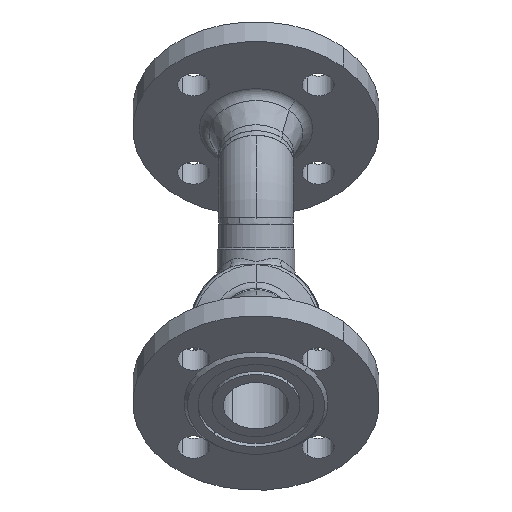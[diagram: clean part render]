
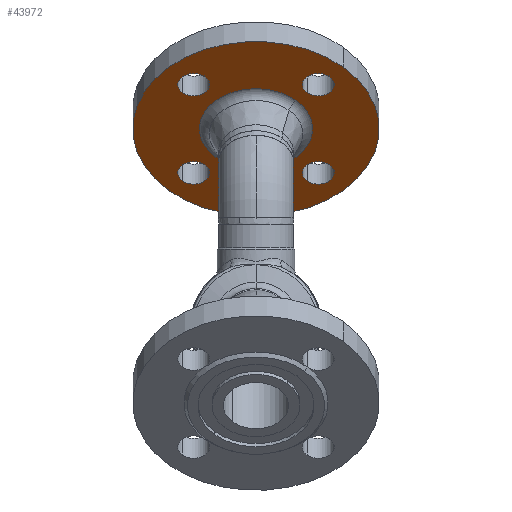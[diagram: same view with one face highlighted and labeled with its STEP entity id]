
A CAD part, front view. The second image highlights one B-rep face of the part: STEP entity #43972.
In plain terms, the highlighted planar face has unit normal (0, -0.707, -0.707) as drawn and (0, 1, 0) by its records, which use the part's own axes.
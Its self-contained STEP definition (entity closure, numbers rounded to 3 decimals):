
#49262 = ORIENTED_EDGE ( 'NONE', *, *, #45022, .F. ) ;
#49599 = CARTESIAN_POINT ( 'NONE',  ( -41., 18., 0. ) ) ;
#512 = EDGE_LOOP ( 'NONE', ( #53737, #51328 ) ) ;
#33617 = CARTESIAN_POINT ( 'NONE',  ( -59., 18., 0. ) ) ;
#17372 = CARTESIAN_POINT ( 'NONE',  ( 59., 18., 0. ) ) ;
#1025 = CARTESIAN_POINT ( 'NONE',  ( -70., 18., 0. ) ) ;
#17478 = EDGE_CURVE ( 'NONE', #32123, #29108, #43446, .T. ) ;
#17682 = VERTEX_POINT ( 'NONE', #43802 ) ;
#1344 = ORIENTED_EDGE ( 'NONE', *, *, #35285, .F. ) ;
#50669 = EDGE_LOOP ( 'NONE', ( #49262, #47850 ) ) ;
#34323 = CIRCLE ( 'NONE', #34324, 9. ) ;
#34324 = AXIS2_PLACEMENT_3D ( 'NONE', #34361, #34362, #34363 ) ;
#34328 = EDGE_LOOP ( 'NONE', ( #4993, #1344 ) ) ;
#34361 = CARTESIAN_POINT ( 'NONE',  ( -50., 18., 0. ) ) ;
#34362 = DIRECTION ( 'NONE',  ( 0., 1., 0. ) ) ;
#34363 = DIRECTION ( 'NONE',  ( 1., 0., 0. ) ) ;
#1751 = CIRCLE ( 'NONE', #1752, 70. ) ;
#1752 = AXIS2_PLACEMENT_3D ( 'NONE', #1753, #1754, #1755 ) ;
#1753 = CARTESIAN_POINT ( 'NONE',  ( 0., 18., 0. ) ) ;
#1754 = DIRECTION ( 'NONE',  ( 0., 1., 0. ) ) ;
#1755 = DIRECTION ( 'NONE',  ( -1., 0., 0. ) ) ;
#18286 = EDGE_CURVE ( 'NONE', #20588, #17682, #44952, .T. ) ;
#34678 = VERTEX_POINT ( 'NONE', #23878 ) ;
#18486 = ORIENTED_EDGE ( 'NONE', *, *, #17478, .T. ) ;
#51328 = ORIENTED_EDGE ( 'NONE', *, *, #18286, .F. ) ;
#34978 = ORIENTED_EDGE ( 'NONE', *, *, #23813, .F. ) ;
#35285 = EDGE_CURVE ( 'NONE', #37712, #34678, #24129, .T. ) ;
#19885 = ORIENTED_EDGE ( 'NONE', *, *, #29715, .T. ) ;
#52688 = CIRCLE ( 'NONE', #52689, 9. ) ;
#52689 = AXIS2_PLACEMENT_3D ( 'NONE', #52690, #52691, #52692 ) ;
#52690 = CARTESIAN_POINT ( 'NONE',  ( -50., 18., 0. ) ) ;
#52691 = DIRECTION ( 'NONE',  ( 0., 1., 0. ) ) ;
#52692 = DIRECTION ( 'NONE',  ( 1., 0., 0. ) ) ;
#52731 = EDGE_CURVE ( 'NONE', #17682, #20588, #10629, .T. ) ;
#36394 = EDGE_CURVE ( 'NONE', #23197, #26237, #52688, .T. ) ;
#3800 = EDGE_CURVE ( 'NONE', #34678, #37712, #5073, .T. ) ;
#20588 = VERTEX_POINT ( 'NONE', #17372 ) ;
#53737 = ORIENTED_EDGE ( 'NONE', *, *, #52731, .F. ) ;
#37405 = ORIENTED_EDGE ( 'NONE', *, *, #36394, .F. ) ;
#37712 = VERTEX_POINT ( 'NONE', #29035 ) ;
#4993 = ORIENTED_EDGE ( 'NONE', *, *, #3800, .F. ) ;
#5073 = CIRCLE ( 'NONE', #5074, 9. ) ;
#5074 = AXIS2_PLACEMENT_3D ( 'NONE', #5075, #5076, #5077 ) ;
#5075 = CARTESIAN_POINT ( 'NONE',  ( 0., 18., 50. ) ) ;
#5076 = DIRECTION ( 'NONE',  ( 0., 1., 0. ) ) ;
#5077 = DIRECTION ( 'NONE',  ( 0., 0., -1. ) ) ;
#5593 = CARTESIAN_POINT ( 'NONE',  ( 70., 18., 0. ) ) ;
#38823 = EDGE_LOOP ( 'NONE', ( #37405, #34978 ) ) ;
#39483 = ORIENTED_EDGE ( 'NONE', *, *, #11440, .F. ) ;
#23197 = VERTEX_POINT ( 'NONE', #33617 ) ;
#23813 = EDGE_CURVE ( 'NONE', #26237, #23197, #34323, .T. ) ;
#23878 = CARTESIAN_POINT ( 'NONE',  ( -9., 18., 50. ) ) ;
#40414 = CIRCLE ( 'NONE', #40415, 9. ) ;
#40415 = AXIS2_PLACEMENT_3D ( 'NONE', #40416, #40417, #40418 ) ;
#40416 = CARTESIAN_POINT ( 'NONE',  ( 0., 18., -50. ) ) ;
#40417 = DIRECTION ( 'NONE',  ( 0., 1., 0. ) ) ;
#40418 = DIRECTION ( 'NONE',  ( 0., 0., 1. ) ) ;
#24129 = CIRCLE ( 'NONE', #24130, 9. ) ;
#24130 = AXIS2_PLACEMENT_3D ( 'NONE', #24131, #24132, #24133 ) ;
#24131 = CARTESIAN_POINT ( 'NONE',  ( 0., 18., 50. ) ) ;
#24132 = DIRECTION ( 'NONE',  ( 0., 1., 0. ) ) ;
#24133 = DIRECTION ( 'NONE',  ( 0., 0., -1. ) ) ;
#40761 = CARTESIAN_POINT ( 'NONE',  ( -32.147, 18., 0. ) ) ;
#40889 = EDGE_CURVE ( 'NONE', #10638, #14312, #40414, .T. ) ;
#41040 = VERTEX_POINT ( 'NONE', #40761 ) ;
#41652 = EDGE_CURVE ( 'NONE', #44073, #41040, #41771, .T. ) ;
#41771 = CIRCLE ( 'NONE', #41772, 32.147 ) ;
#41772 = AXIS2_PLACEMENT_3D ( 'NONE', #41773, #41774, #41775 ) ;
#41773 = CARTESIAN_POINT ( 'NONE',  ( 0., 18., 0. ) ) ;
#41774 = DIRECTION ( 'NONE',  ( 0., 1., 0. ) ) ;
#41775 = DIRECTION ( 'NONE',  ( -1., 0., 0. ) ) ;
#41900 = ORIENTED_EDGE ( 'NONE', *, *, #40889, .F. ) ;
#26237 = VERTEX_POINT ( 'NONE', #49599 ) ;
#43312 = EDGE_LOOP ( 'NONE', ( #41900, #39483 ) ) ;
#10629 = CIRCLE ( 'NONE', #10630, 9. ) ;
#10630 = AXIS2_PLACEMENT_3D ( 'NONE', #10631, #10632, #10633 ) ;
#10631 = CARTESIAN_POINT ( 'NONE',  ( 50., 18., 0. ) ) ;
#10632 = DIRECTION ( 'NONE',  ( 0., 1., 0. ) ) ;
#10633 = DIRECTION ( 'NONE',  ( -1., 0., 0. ) ) ;
#10638 = VERTEX_POINT ( 'NONE', #15598 ) ;
#43446 = CIRCLE ( 'NONE', #43483, 70. ) ;
#43483 = AXIS2_PLACEMENT_3D ( 'NONE', #43484, #43485, #43486 ) ;
#43484 = CARTESIAN_POINT ( 'NONE',  ( 0., 18., 0. ) ) ;
#43485 = DIRECTION ( 'NONE',  ( 0., 1., 0. ) ) ;
#43486 = DIRECTION ( 'NONE',  ( -1., 0., 0. ) ) ;
#43802 = CARTESIAN_POINT ( 'NONE',  ( 41., 18., 0. ) ) ;
#43972 = ADVANCED_FACE ( 'NONE', ( #44891, #44892, #44893, #44894, #44895, #44896 ), #44897, .F. ) ;
#44073 = VERTEX_POINT ( 'NONE', #44989 ) ;
#11440 = EDGE_CURVE ( 'NONE', #14312, #10638, #28831, .T. ) ;
#44891 = FACE_BOUND ( 'NONE', #43312, .T. ) ;
#44892 = FACE_BOUND ( 'NONE', #38823, .T. ) ;
#44893 = FACE_BOUND ( 'NONE', #34328, .T. ) ;
#44894 = FACE_BOUND ( 'NONE', #512, .T. ) ;
#44895 = FACE_BOUND ( 'NONE', #50669, .T. ) ;
#44896 = FACE_OUTER_BOUND ( 'NONE', #47189, .T. ) ;
#44897 = PLANE ( 'NONE',  #44898 ) ;
#44898 = AXIS2_PLACEMENT_3D ( 'NONE', #44899, #44900, #44901 ) ;
#44899 = CARTESIAN_POINT ( 'NONE',  ( 70., 18., 0. ) ) ;
#44900 = DIRECTION ( 'NONE',  ( 0., -1., 0. ) ) ;
#44901 = DIRECTION ( 'NONE',  ( 1., 0., 0. ) ) ;
#44952 = CIRCLE ( 'NONE', #44953, 9. ) ;
#44953 = AXIS2_PLACEMENT_3D ( 'NONE', #44954, #44955, #44988 ) ;
#44954 = CARTESIAN_POINT ( 'NONE',  ( 50., 18., 0. ) ) ;
#44955 = DIRECTION ( 'NONE',  ( 0., 1., 0. ) ) ;
#44988 = DIRECTION ( 'NONE',  ( -1., 0., 0. ) ) ;
#44989 = CARTESIAN_POINT ( 'NONE',  ( 32.147, 18., 0. ) ) ;
#45022 = EDGE_CURVE ( 'NONE', #41040, #44073, #45497, .T. ) ;
#28831 = CIRCLE ( 'NONE', #28832, 9. ) ;
#28832 = AXIS2_PLACEMENT_3D ( 'NONE', #28833, #28834, #28835 ) ;
#28833 = CARTESIAN_POINT ( 'NONE',  ( 0., 18., -50. ) ) ;
#28834 = DIRECTION ( 'NONE',  ( 0., 1., 0. ) ) ;
#28835 = DIRECTION ( 'NONE',  ( 0., 0., 1. ) ) ;
#29035 = CARTESIAN_POINT ( 'NONE',  ( 9., 18., 50. ) ) ;
#29108 = VERTEX_POINT ( 'NONE', #1025 ) ;
#45497 = CIRCLE ( 'NONE', #45498, 32.147 ) ;
#45498 = AXIS2_PLACEMENT_3D ( 'NONE', #45499, #45500, #45501 ) ;
#45499 = CARTESIAN_POINT ( 'NONE',  ( 0., 18., 0. ) ) ;
#45500 = DIRECTION ( 'NONE',  ( 0., 1., 0. ) ) ;
#45501 = DIRECTION ( 'NONE',  ( -1., 0., 0. ) ) ;
#29715 = EDGE_CURVE ( 'NONE', #29108, #32123, #1751, .T. ) ;
#14312 = VERTEX_POINT ( 'NONE', #31851 ) ;
#47189 = EDGE_LOOP ( 'NONE', ( #19885, #18486 ) ) ;
#47850 = ORIENTED_EDGE ( 'NONE', *, *, #41652, .F. ) ;
#31851 = CARTESIAN_POINT ( 'NONE',  ( 9., 18., -50. ) ) ;
#15598 = CARTESIAN_POINT ( 'NONE',  ( -9., 18., -50. ) ) ;
#32123 = VERTEX_POINT ( 'NONE', #5593 ) ;
